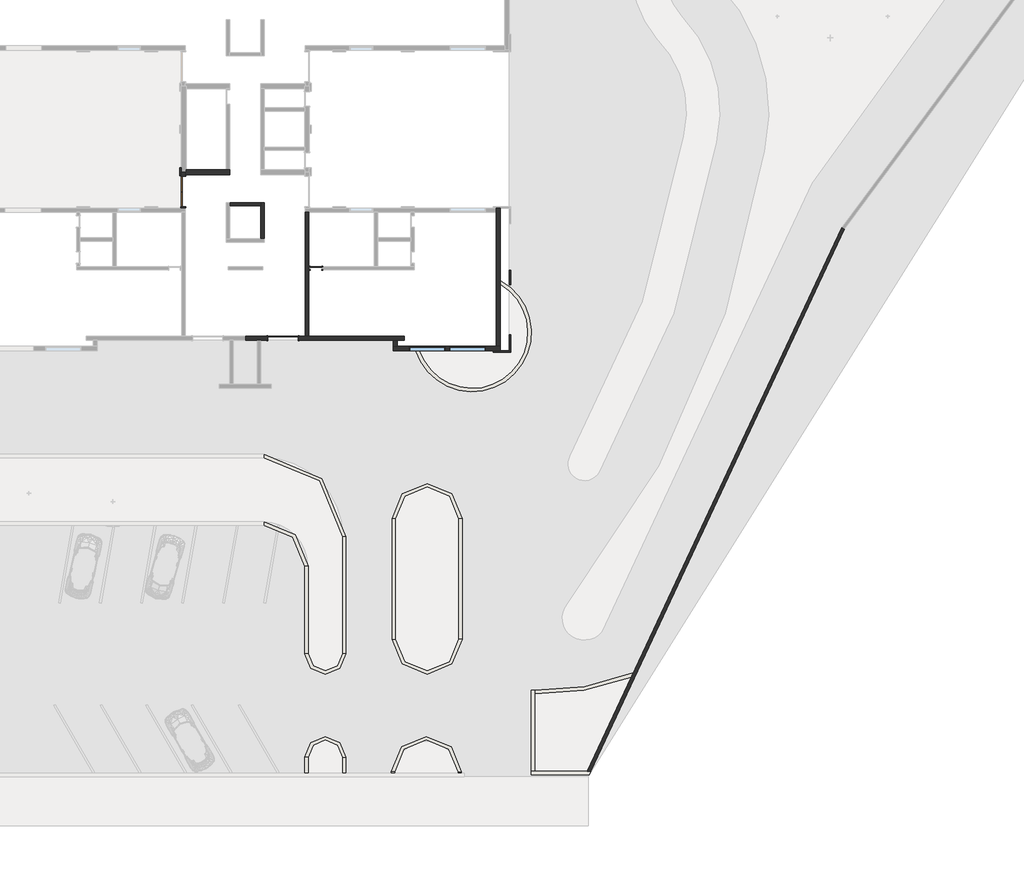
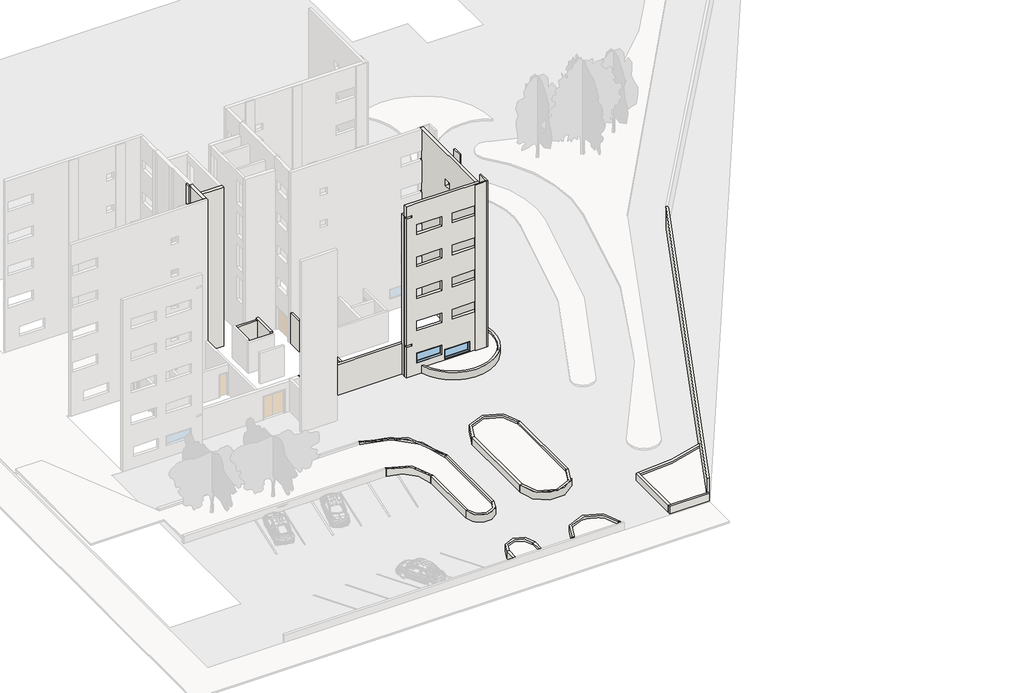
# One storey, part 2 of 6: 33 walls, 3 doors, 2 windows.
"""IFC4 building model written with IfcOpenShell, lengths in millimetres."""

from ifc_helpers import new_model, si_unit, point, frame, frame_2d, origin, origin_with_axes, place, context, project, spatial, polyline, circle_curve, trimmed, segment, composite_curve, outline, extrude, faceted_brep, transform, mapped, element, save
from ifc_brep_helpers import plane_surface, cylinder_surface, revolved_surface, advanced_brep
from components import door_1830_x_2134_mm_660d1098, door_70_x_210_2a34fc55, window_220_x_90_84e01c73

model = new_model("IFC4")

# Units and contexts
model_context = context("Model", 3, world=origin())
ifc_project = project(units=[si_unit("LENGTHUNIT", "METRE", prefix="MILLI")], contexts=[model_context])

# Site, building, storey
site = spatial("IfcSite", under=ifc_project)
building = spatial("IfcBuilding", under=site)
storey = spatial("IfcBuildingStorey", under=building, Name="Térreo", Elevation=0.0)

# Doors
placement = place(None, origin())
door_1830_x_2134_mm_shape = door_1830_x_2134_mm_660d1098(model_context)
element("IfcDoor", 1, ObjectType="Descarga dupla : 1830 x 2134 mm", at=placement, inside=storey, context=model_context, shape_type="MappedRepresentation", body=[
    mapped(door_1830_x_2134_mm_shape, transform((1266.2734258, -11931.3385375, 0.0), x_axis=(1.0, 0.0, 0.0), y_axis=(0.0, 1.0, 0.0), z_axis=(0.0, 0.0, 1.0))),
])
element("IfcDoor", 2, ObjectType="Descarga dupla : 1830 x 2134 mm", at=placement, inside=storey, context=model_context, shape_type="MappedRepresentation", body=[
    mapped(door_1830_x_2134_mm_shape, transform((-4801.2265742, -3016.3385375, 0.0), x_axis=(0.0, 1.0, 0.0), y_axis=(-1.0, 0.0, 0.0), z_axis=(0.0, 0.0, 1.0))),
])
door_70_x_210_shape = door_70_x_210_2a34fc55(model_context)
element("IfcDoor", 3, ObjectType="M_Descarga simples : 70 x 210", at=placement, inside=storey, context=model_context, shape_type="MappedRepresentation", body=[
    mapped(door_70_x_210_shape, transform((3273.7734258, -7686.3385375, 0.0), x_axis=(-1.0, 0.0, 0.0), y_axis=(0.0, -1.0, 0.0), z_axis=(0.0, 0.0, 1.0))),
])

# Walls
element("IfcWall", 4, ObjectType="Exeterna 25", at=placement, inside=storey, context=model_context, shape_type="Brep", body=[
    faceted_brep([(7973.7734258, -12686.3385375, 0.0), (9342.8441289, -12686.3385375, 0.0), (9553.3881794, -12686.3385375, 0.0), (14473.269929, -12686.3385375, 0.0), (14473.269929, -12686.3385375, 16000.0), (8713.7734258, -12686.3385375, 16000.0), (8463.7734258, -12686.3385375, 16000.0), (7973.7734258, -12686.3385375, 16000.0), (7973.7734258, -12686.3385375, 15000.0), (8463.7734258, -12686.3385375, 15000.0), (8463.7734258, -12686.3385375, 14850.0), (7973.7734258, -12686.3385375, 14850.0), (7973.7734258, -12686.3385375, 3000.0), (8463.7734258, -12686.3385375, 3000.0), (8463.7734258, -12686.3385375, 2850.0), (7973.7734258, -12686.3385375, 2850.0), (14238.7734258, -12686.3385375, 5000.0), (14238.7734258, -12686.3385375, 4100.0), (12038.7734258, -12686.3385375, 4100.0), (12038.7734258, -12686.3385375, 5000.0), (11138.7734258, -12686.3385375, 5000.0), (11138.7734258, -12686.3385375, 4100.0), (8938.7734258, -12686.3385375, 4100.0), (8938.7734258, -12686.3385375, 5000.0), (14238.7734258, -12686.3385375, 8000.0), (14238.7734258, -12686.3385375, 7100.0), (12038.7734258, -12686.3385375, 7100.0), (12038.7734258, -12686.3385375, 8000.0), (11138.7734258, -12686.3385375, 8000.0), (11138.7734258, -12686.3385375, 7100.0), (8938.7734258, -12686.3385375, 7100.0), (8938.7734258, -12686.3385375, 8000.0), (14238.7734258, -12686.3385375, 11000.0), (14238.7734258, -12686.3385375, 10100.0), (12038.7734258, -12686.3385375, 10100.0), (12038.7734258, -12686.3385375, 11000.0), (11138.7734258, -12686.3385375, 11000.0), (11138.7734258, -12686.3385375, 10100.0), (8938.7734258, -12686.3385375, 10100.0), (8938.7734258, -12686.3385375, 11000.0), (14238.7734258, -12686.3385375, 14000.0), (14238.7734258, -12686.3385375, 13100.0), (12038.7734258, -12686.3385375, 13100.0), (12038.7734258, -12686.3385375, 14000.0), (11138.7734258, -12686.3385375, 14000.0), (11138.7734258, -12686.3385375, 13100.0), (8938.7734258, -12686.3385375, 13100.0), (8938.7734258, -12686.3385375, 14000.0), (13583.7734258, -12686.3385375, 1480.0), (13583.7734258, -12686.3385375, 580.0), (11383.7734258, -12686.3385375, 580.0), (11383.7734258, -12686.3385375, 1480.0), (11138.7734258, -12686.3385375, 2000.0), (11138.7734258, -12686.3385375, 1100.0), (8938.7734258, -12686.3385375, 1100.0), (8938.7734258, -12686.3385375, 2000.0), (14473.269929, -12436.3385375, 0.0), (14223.269929, -12436.3385375, 0.0), (8223.7734258, -12436.3385375, 0.0), (7973.7734258, -12436.3385375, 0.0), (7973.7734258, -12436.3385375, 2850.0), (8463.7734258, -12436.3385375, 2850.0), (8463.7734258, -12436.3385375, 3000.0), (7973.7734258, -12436.3385375, 3000.0), (7973.7734258, -12436.3385375, 14850.0), (8463.7734258, -12436.3385375, 14850.0), (8463.7734258, -12436.3385375, 15000.0), (7973.7734258, -12436.3385375, 15000.0), (7973.7734258, -12436.3385375, 16000.0), (14223.269929, -12436.3385375, 16000.0), (14473.269929, -12436.3385375, 16000.0), (14238.7734258, -12436.3385375, 4100.0), (14238.7734258, -12436.3385375, 5000.0), (12038.7734258, -12436.3385375, 5000.0), (12038.7734258, -12436.3385375, 4100.0), (11138.7734258, -12436.3385375, 4100.0), (11138.7734258, -12436.3385375, 5000.0), (8938.7734258, -12436.3385375, 5000.0), (8938.7734258, -12436.3385375, 4100.0), (14238.7734258, -12436.3385375, 7100.0), (14238.7734258, -12436.3385375, 8000.0), (12038.7734258, -12436.3385375, 8000.0), (12038.7734258, -12436.3385375, 7100.0), (11138.7734258, -12436.3385375, 7100.0), (11138.7734258, -12436.3385375, 8000.0), (8938.7734258, -12436.3385375, 8000.0), (8938.7734258, -12436.3385375, 7100.0), (14238.7734258, -12436.3385375, 10100.0), (14238.7734258, -12436.3385375, 11000.0), (12038.7734258, -12436.3385375, 11000.0), (12038.7734258, -12436.3385375, 10100.0), (11138.7734258, -12436.3385375, 10100.0), (11138.7734258, -12436.3385375, 11000.0), (8938.7734258, -12436.3385375, 11000.0), (8938.7734258, -12436.3385375, 10100.0), (14238.7734258, -12436.3385375, 13100.0), (14238.7734258, -12436.3385375, 14000.0), (12038.7734258, -12436.3385375, 14000.0), (12038.7734258, -12436.3385375, 13100.0), (11138.7734258, -12436.3385375, 13100.0), (11138.7734258, -12436.3385375, 14000.0), (8938.7734258, -12436.3385375, 14000.0), (8938.7734258, -12436.3385375, 13100.0), (13583.7734258, -12436.3385375, 580.0), (13583.7734258, -12436.3385375, 1480.0), (11383.7734258, -12436.3385375, 1480.0), (11383.7734258, -12436.3385375, 580.0), (11138.7734258, -12436.3385375, 1100.0), (11138.7734258, -12436.3385375, 2000.0), (8938.7734258, -12436.3385375, 2000.0), (8938.7734258, -12436.3385375, 1100.0)], [[[0, 1, 2, 3, 4, 5, 6, 7, 8, 9, 10, 11, 12, 13, 14, 15], [16, 17, 18, 19], [20, 21, 22, 23], [24, 25, 26, 27], [28, 29, 30, 31], [32, 33, 34, 35], [36, 37, 38, 39], [40, 41, 42, 43], [44, 45, 46, 47], [48, 49, 50, 51], [52, 53, 54, 55]], [[56, 57, 58, 59, 60, 61, 62, 63, 64, 65, 66, 67, 68, 69, 70], [71, 72, 73, 74], [75, 76, 77, 78], [79, 80, 81, 82], [83, 84, 85, 86], [87, 88, 89, 90], [91, 92, 93, 94], [95, 96, 97, 98], [99, 100, 101, 102], [103, 104, 105, 106], [107, 108, 109, 110]], [[3, 2, 1, 0, 59, 58, 57, 56]], [[7, 6, 5, 4, 70, 69, 68]], [[4, 3, 56, 70]], [[7, 68, 67, 8]], [[59, 0, 15, 60]], [[63, 12, 11, 64]], [[14, 61, 60, 15]], [[62, 13, 12, 63]], [[61, 14, 13, 62]], [[72, 71, 17, 16]], [[73, 72, 16, 19]], [[74, 73, 19, 18]], [[71, 74, 18, 17]], [[76, 75, 21, 20]], [[77, 76, 20, 23]], [[78, 77, 23, 22]], [[75, 78, 22, 21]], [[10, 65, 64, 11]], [[66, 9, 8, 67]], [[65, 10, 9, 66]], [[80, 79, 25, 24]], [[81, 80, 24, 27]], [[82, 81, 27, 26]], [[79, 82, 26, 25]], [[84, 83, 29, 28]], [[85, 84, 28, 31]], [[86, 85, 31, 30]], [[83, 86, 30, 29]], [[88, 87, 33, 32]], [[89, 88, 32, 35]], [[90, 89, 35, 34]], [[87, 90, 34, 33]], [[92, 91, 37, 36]], [[93, 92, 36, 39]], [[94, 93, 39, 38]], [[91, 94, 38, 37]], [[96, 95, 41, 40]], [[97, 96, 40, 43]], [[98, 97, 43, 42]], [[95, 98, 42, 41]], [[100, 99, 45, 44]], [[101, 100, 44, 47]], [[102, 101, 47, 46]], [[99, 102, 46, 45]], [[104, 103, 49, 48]], [[105, 104, 48, 51]], [[106, 105, 51, 50]], [[103, 106, 50, 49]], [[108, 107, 53, 52]], [[109, 108, 52, 55]], [[110, 109, 55, 54]], [[107, 110, 54, 53]]]),
])
element("IfcWall", 5, ObjectType="Exeterna 25", at=placement, inside=storey, context=model_context, shape_type="Brep", body=[
    faceted_brep([(14473.269929, -12436.3385375, 0.0), (14473.269929, -8657.7339343, 0.0), (14473.269929, -8428.6118933, 0.0), (14473.269929, -4036.3385375, 0.0), (14473.269929, -4036.3385375, 4100.0), (14473.269929, -4286.3385375, 4100.0), (14473.269929, -4286.3385375, 5000.0), (14473.269929, -4036.3385375, 5000.0), (14473.269929, -4036.3385375, 7100.0), (14473.269929, -4286.3385375, 7100.0), (14473.269929, -4286.3385375, 8000.0), (14473.269929, -4036.3385375, 8000.0), (14473.269929, -4036.3385375, 10100.0), (14473.269929, -4286.3385375, 10100.0), (14473.269929, -4286.3385375, 11000.0), (14473.269929, -4036.3385375, 11000.0), (14473.269929, -4036.3385375, 13100.0), (14473.269929, -4286.3385375, 13100.0), (14473.269929, -4286.3385375, 14000.0), (14473.269929, -4036.3385375, 14000.0), (14473.269929, -4036.3385375, 16000.0), (14473.269929, -12436.3385375, 16000.0), (14473.269929, -8486.3385375, 3915.0), (14473.269929, -8486.3385375, 4515.0), (14473.269929, -7886.3385375, 4515.0), (14473.269929, -7886.3385375, 3915.0), (14473.269929, -8486.3385375, 6915.0), (14473.269929, -8486.3385375, 7515.0), (14473.269929, -7886.3385375, 7515.0), (14473.269929, -7886.3385375, 6915.0), (14473.269929, -8486.3385375, 9915.0), (14473.269929, -8486.3385375, 10515.0), (14473.269929, -7886.3385375, 10515.0), (14473.269929, -7886.3385375, 9915.0), (14473.269929, -8486.3385375, 12915.0), (14473.269929, -8486.3385375, 13515.0), (14473.269929, -7886.3385375, 13515.0), (14473.269929, -7886.3385375, 12915.0), (14223.269929, -4036.3385375, 0.0), (14223.269929, -4286.3385375, 0.0), (14223.269929, -12436.3385375, 0.0), (14223.269929, -12436.3385375, 2850.0), (14223.269929, -12436.3385375, 3000.0), (14223.269929, -12436.3385375, 14850.0), (14223.269929, -12436.3385375, 15000.0), (14223.269929, -12436.3385375, 16000.0), (14223.269929, -4286.3385375, 16000.0), (14223.269929, -4036.3385375, 16000.0), (14223.269929, -4036.3385375, 14000.0), (14223.269929, -4286.3385375, 14000.0), (14223.269929, -4286.3385375, 13100.0), (14223.269929, -4036.3385375, 13100.0), (14223.269929, -4036.3385375, 11000.0), (14223.269929, -4286.3385375, 11000.0), (14223.269929, -4286.3385375, 10100.0), (14223.269929, -4036.3385375, 10100.0), (14223.269929, -4036.3385375, 8000.0), (14223.269929, -4286.3385375, 8000.0), (14223.269929, -4286.3385375, 7100.0), (14223.269929, -4036.3385375, 7100.0), (14223.269929, -4036.3385375, 5000.0), (14223.269929, -4286.3385375, 5000.0), (14223.269929, -4286.3385375, 4100.0), (14223.269929, -4036.3385375, 4100.0), (14223.269929, -8486.3385375, 4515.0), (14223.269929, -8486.3385375, 3915.0), (14223.269929, -7886.3385375, 3915.0), (14223.269929, -7886.3385375, 4515.0), (14223.269929, -8486.3385375, 7515.0), (14223.269929, -8486.3385375, 6915.0), (14223.269929, -7886.3385375, 6915.0), (14223.269929, -7886.3385375, 7515.0), (14223.269929, -8486.3385375, 10515.0), (14223.269929, -8486.3385375, 9915.0), (14223.269929, -7886.3385375, 9915.0), (14223.269929, -7886.3385375, 10515.0), (14223.269929, -8486.3385375, 13515.0), (14223.269929, -8486.3385375, 12915.0), (14223.269929, -7886.3385375, 12915.0), (14223.269929, -7886.3385375, 13515.0)], [[[0, 1, 2, 3, 4, 5, 6, 7, 8, 9, 10, 11, 12, 13, 14, 15, 16, 17, 18, 19, 20, 21], [22, 23, 24, 25], [26, 27, 28, 29], [30, 31, 32, 33], [34, 35, 36, 37]], [[38, 39, 40, 41, 42, 43, 44, 45, 46, 47, 48, 49, 50, 51, 52, 53, 54, 55, 56, 57, 58, 59, 60, 61, 62, 63], [64, 65, 66, 67], [68, 69, 70, 71], [72, 73, 74, 75], [76, 77, 78, 79]], [[3, 2, 1, 0, 40, 39, 38]], [[21, 20, 47, 46, 45]], [[3, 38, 63, 4]], [[47, 20, 19, 48]], [[51, 16, 15, 52]], [[55, 12, 11, 56]], [[59, 8, 7, 60]], [[0, 21, 45, 44, 43, 42, 41, 40]], [[23, 22, 65, 64]], [[24, 23, 64, 67]], [[25, 24, 67, 66]], [[22, 25, 66, 65]], [[27, 26, 69, 68]], [[28, 27, 68, 71]], [[29, 28, 71, 70]], [[26, 29, 70, 69]], [[31, 30, 73, 72]], [[32, 31, 72, 75]], [[33, 32, 75, 74]], [[30, 33, 74, 73]], [[35, 34, 77, 76]], [[36, 35, 76, 79]], [[37, 36, 79, 78]], [[34, 37, 78, 77]], [[49, 18, 17, 50]], [[18, 49, 48, 19]], [[50, 17, 16, 51]], [[53, 14, 13, 54]], [[14, 53, 52, 15]], [[54, 13, 12, 55]], [[57, 10, 9, 58]], [[10, 57, 56, 11]], [[58, 9, 8, 59]], [[61, 6, 5, 62]], [[6, 61, 60, 7]], [[62, 5, 4, 63]]]),
])
element("IfcWall", 6, ObjectType="Exeterna 25", at=placement, inside=storey, context=model_context, shape_type="Brep", body=[
    faceted_brep([(7973.7734258, -12056.3385375, 0.0), (7973.7734258, -12436.3385375, 0.0), (7973.7734258, -12436.3385375, 15000.0), (7973.7734258, -12056.3385375, 15000.0), (7973.7734258, -12056.3385375, 6000.0), (7973.7734258, -12056.3385375, 3000.0), (8223.7734258, -12056.3385375, 0.0), (8223.7734258, -12056.3385375, 15000.0), (8223.7734258, -12436.3385375, 15000.0), (8223.7734258, -12436.3385375, 0.0)], [[[0, 1, 2, 3, 4, 5]], [[6, 7, 8, 9]], [[1, 0, 6, 9]], [[3, 2, 8, 7]], [[2, 1, 9, 8]], [[0, 5, 4, 3, 7, 6]]]),
])
element("IfcWall", 7, ObjectType="Exeterna 25", at=placement, inside=storey, context=model_context, shape_type="Brep", body=[
    faceted_brep([(-4676.2265742, -1846.3385375, 16000.0), (-4676.2265742, -4036.3385375, 16000.0), (-4676.2265742, -4036.3385375, 15000.0), (-4676.2265742, -4036.3385375, 14850.0), (-4676.2265742, -4036.3385375, 3000.0), (-4676.2265742, -4036.3385375, 2850.0), (-4676.2265742, -4036.3385375, 0.0), (-4676.2265742, -3931.3385375, 0.0), (-4676.2265742, -3931.3385375, 2134.0), (-4676.2265742, -2101.3385375, 2134.0), (-4676.2265742, -2101.3385375, 0.0), (-4676.2265742, -1996.3385375, 0.0), (-4676.2265742, -1846.3385375, 0.0), (-4676.2265742, -1846.3385375, 14850.0), (-4676.2265742, -1846.3385375, 15000.0), (-4676.2265742, -3724.4383886, 5000.0), (-4676.2265742, -2256.7552159, 5000.0), (-4676.2265742, -2256.7552159, 4100.0), (-4676.2265742, -3724.4383886, 4100.0), (-4676.2265742, -3724.4383886, 8000.0), (-4676.2265742, -2256.7552159, 8000.0), (-4676.2265742, -2256.7552159, 7100.0), (-4676.2265742, -3724.4383886, 7100.0), (-4676.2265742, -3724.4383886, 11000.0), (-4676.2265742, -2256.7552159, 11000.0), (-4676.2265742, -2256.7552159, 10100.0), (-4676.2265742, -3724.4383886, 10100.0), (-4676.2265742, -3724.4383886, 14000.0), (-4676.2265742, -2256.7552159, 14000.0), (-4676.2265742, -2256.7552159, 13100.0), (-4676.2265742, -3724.4383886, 13100.0), (-4926.2265742, -4036.3385375, 16000.0), (-4926.2265742, -1846.3385375, 16000.0), (-4926.2265742, -1846.3385375, 0.0), (-4926.2265742, -2101.3385375, 0.0), (-4926.2265742, -2101.3385375, 2134.0), (-4926.2265742, -3931.3385375, 2134.0), (-4926.2265742, -3931.3385375, 0.0), (-4926.2265742, -4036.3385375, 0.0), (-4926.2265742, -2256.7552159, 5000.0), (-4926.2265742, -3724.4383886, 5000.0), (-4926.2265742, -3724.4383886, 4100.0), (-4926.2265742, -2256.7552159, 4100.0), (-4926.2265742, -2256.7552159, 8000.0), (-4926.2265742, -3724.4383886, 8000.0), (-4926.2265742, -3724.4383886, 7100.0), (-4926.2265742, -2256.7552159, 7100.0), (-4926.2265742, -2256.7552159, 11000.0), (-4926.2265742, -3724.4383886, 11000.0), (-4926.2265742, -3724.4383886, 10100.0), (-4926.2265742, -2256.7552159, 10100.0), (-4926.2265742, -2256.7552159, 14000.0), (-4926.2265742, -3724.4383886, 14000.0), (-4926.2265742, -3724.4383886, 13100.0), (-4926.2265742, -2256.7552159, 13100.0)], [[[0, 1, 2, 3, 4, 5, 6, 7, 8, 9, 10, 11, 12, 13, 14], [15, 16, 17, 18], [19, 20, 21, 22], [23, 24, 25, 26], [27, 28, 29, 30]], [[31, 32, 33, 34, 35, 36, 37, 38], [39, 40, 41, 42], [43, 44, 45, 46], [47, 48, 49, 50], [51, 52, 53, 54]], [[6, 38, 37, 7]], [[33, 12, 11, 10, 34]], [[1, 0, 32, 31]], [[9, 35, 34, 10]], [[35, 9, 8, 36]], [[36, 8, 7, 37]], [[15, 40, 39, 16]], [[17, 42, 41, 18]], [[40, 15, 18, 41]], [[16, 39, 42, 17]], [[19, 44, 43, 20]], [[21, 46, 45, 22]], [[44, 19, 22, 45]], [[20, 43, 46, 21]], [[23, 48, 47, 24]], [[25, 50, 49, 26]], [[48, 23, 26, 49]], [[24, 47, 50, 25]], [[27, 52, 51, 28]], [[29, 54, 53, 30]], [[52, 27, 30, 53]], [[28, 51, 54, 29]], [[1, 31, 38, 6, 5, 4, 3, 2]], [[12, 33, 32, 0, 14, 13]]]),
])
element("IfcWall", 8, ObjectType="Exeterna 25", at=placement, inside=storey, context=model_context, shape_type="Brep", body=[
    faceted_brep([(8638.7734258, -12056.3385375, 0.0), (8638.7734258, -12056.3385375, 2850.0), (-1026.2265742, -12056.3385375, 2850.0), (-1026.2265742, -12056.3385375, 0.0), (-291.2265742, -12056.3385375, 0.0), (-91.2265742, -12056.3385375, 0.0), (351.2734258, -12056.3385375, 0.0), (351.2734258, -12056.3385375, 2134.0), (2181.2734258, -12056.3385375, 2134.0), (2181.2734258, -12056.3385375, 0.0), (8638.7734258, -11806.3385375, 2850.0), (8638.7734258, -11806.3385375, 0.0), (2823.7734258, -11806.3385375, 0.0), (2623.7734258, -11806.3385375, 0.0), (2181.2734258, -11806.3385375, 0.0), (2181.2734258, -11806.3385375, 2134.0), (351.2734258, -11806.3385375, 2134.0), (351.2734258, -11806.3385375, 0.0), (-1026.2265742, -11806.3385375, 0.0), (-1026.2265742, -11806.3385375, 2850.0), (2623.7734258, -11806.3385375, 2850.0), (2823.7734258, -11806.3385375, 2850.0)], [[[0, 1, 2, 3, 4, 5, 6, 7, 8, 9]], [[10, 11, 12, 13, 14, 15, 16, 17, 18, 19, 20, 21]], [[11, 0, 9, 14, 13, 12]], [[3, 18, 17, 6, 5, 4]], [[1, 0, 11, 10]], [[2, 1, 10, 21, 20, 19]], [[3, 2, 19, 18]], [[8, 15, 14, 9]], [[15, 8, 7, 16]], [[16, 7, 6, 17]]]),
])
element("IfcWall", 9, ObjectType="jardineira", at=placement, inside=storey, context=model_context, shape_type="Brep", body=[
    faceted_brep([(19973.6851642, -38281.4344816, 0.0), (19752.8557151, -38281.4344816, 0.0), (16568.5988374, -38281.4344816, 0.0), (16368.5988374, -38281.4344816, 0.0), (16368.5988374, -38281.4344816, 700.0), (16568.5988374, -38281.4344816, 700.0), (19973.6851642, -38281.4344816, 700.0), (19880.0601377, -38481.4344816, 0.0), (19880.0601377, -38481.4344816, 700.0), (16368.5988374, -38481.4344816, 700.0), (16368.5988374, -38481.4344816, 0.0)], [[[0, 1, 2, 3, 4, 5, 6]], [[7, 8, 9, 10]], [[3, 2, 1, 0, 7, 10]], [[6, 5, 4, 9, 8]], [[4, 3, 10, 9]], [[0, 6, 8, 7]]]),
])
element("IfcWall", 10, ObjectType="jardineira", at=placement, inside=storey, context=model_context, shape_type="AdvancedBrep", body=[
    advanced_brep(
    [(16568.5988374, -38281.4344816, 0.0), (16568.5988374, -33543.0270687, 0.0), (16568.5988374, -33342.9644186, 0.0), (16568.5988374, -33342.9644186, 700.0), (16568.5988374, -33543.0270687, 700.0), (16568.5988374, -38281.4344816, 700.0), (16368.5988374, -38281.4344816, 0.0), (16368.5988374, -38281.4344816, 700.0), (16368.5988374, -33336.6191191, 700.0), (16368.5988374, -33336.6191191, 0.0)],
    [
        (0, 1),
        (1, 2),
        (2, 3),
        (3, 4),
        (4, 5),
        (5, 0),
        (6, 7),
        (7, 8),
        (8, 9),
        (9, 6),
        (0, 6),
        (9, 2, circle_curve(frame((16954.7200078, -18017.5465347, 0.0), z_axis=(0.0, 0.0, 1.0), x_axis=(1.0, 0.0, 0.0)), 15330.2812392)),
        (3, 8, circle_curve(frame((16954.7200078, -18017.5465347, 700.0), z_axis=(0.0, 0.0, -1.0), x_axis=(1.0, 0.0, 0.0)), 15330.2812392)),
        (7, 5),
    ],
    [
        plane_surface(frame((16568.5988374, -38481.4344816, 0.0), z_axis=(1.0, 0.0, 0.0), x_axis=(0.0, 1.0, 0.0))),
        plane_surface(frame((16368.5988374, -38481.4344816, 0.0), z_axis=(-1.0, 0.0, 0.0), x_axis=(0.0, -1.0, 0.0))),
        plane_surface(frame((16568.5988374, -38381.4344816, 0.0), z_axis=(0.0, 0.0, -1.0), x_axis=(-1.0, 0.0, 0.0))),
        plane_surface(frame((16568.5988374, -33440.1684042, 700.0), z_axis=(0.0, 0.0, 1.0), x_axis=(-1.0, 0.0, 0.0))),
        plane_surface(frame((19880.0601377, -38281.4344816, 0.0), z_axis=(0.0, -1.0, 0.0), x_axis=(-1.0, 0.0, 0.0))),
        revolved_surface(polyline([(32285.001247, -18017.5465347, 0.0), (32285.001247, -18017.5465347, 700.0)]), (16954.7200078, -18017.5465347, 0.0), (0.0, 0.0, -1.0)),
    ],
    [
        (0, [[1, 2, 3, 4, 5, 6]]),
        (1, [[7, 8, 9, 10]]),
        (2, [[-2, -1, 11, -10, 12]]),
        (3, [[-5, -4, 13, -8, 14]]),
        (4, [[-6, -14, -7, -11]]),
        (5, [[-3, -12, -9, -13]]),
    ],
),
])
element("IfcWall", 11, ObjectType="jardineira", at=placement, inside=storey, context=model_context, shape_type="SweptSolid", body=[
    extrude(outline(polyline([(4891.9307061, -31114.4634261), (4891.9307061, -24006.6566108), (5091.9307061, -24006.6566108), (5091.9307061, -31114.4634261), (4891.9307061, -31114.4634261)])), origin_with_axes(), (0.0, 0.0, 1.0), 700.0),
])
element("IfcWall", 12, ObjectType="jardineira", at=placement, inside=storey, context=model_context, shape_type="SweptSolid", body=[
    extrude(outline(polyline([(8096.7764098, -22906.6566108), (8096.7764098, -30232.738286), (7896.7764098, -30232.738286), (7896.7764098, -22906.6566108), (8096.7764098, -22906.6566108)])), origin_with_axes(), (0.0, 0.0, 1.0), 700.0),
])
element("IfcWall", 13, ObjectType="jardineira", at=placement, inside=storey, context=model_context, shape_type="SweptSolid", body=[
    extrude(outline(polyline([(11960.22669, -30232.738286), (11960.22669, -22906.6566108), (12160.22669, -22906.6566108), (12160.22669, -30232.738286), (11960.22669, -30232.738286)])), origin_with_axes(), (0.0, 0.0, 1.0), 700.0),
])
element("IfcWall", 14, ObjectType="jardineira", at=placement, inside=storey, context=model_context, shape_type="SweptSolid", body=[
    extrude(outline(polyline([(2791.9307061, -37414.1480873), (2791.9307061, -38395.8732274), (2591.9307061, -38395.8732274), (2591.9307061, -37414.1480873), (2791.9307061, -37414.1480873)])), origin_with_axes(), (0.0, 0.0, 1.0), 700.0),
])
element("IfcWall", 15, ObjectType="jardineira", at=placement, inside=storey, context=model_context, shape_type="SweptSolid", body=[
    extrude(outline(composite_curve([segment(polyline([(22559.1568436, -32286.6674126), (22436.7787869, -32548.0890887)]), True, "CONTINUOUS"), segment(trimmed(circle_curve(frame_2d((16954.7200078, -18017.5465347)), 15530.2812392), [point((22436.7787869, -32548.0890887))], [point((16568.5988374, -33543.0270687))], False, "CARTESIAN"), True, "CONTINUOUS"), segment(polyline([(16568.5988374, -33543.0270687), (16568.5988374, -33342.9644186)]), True, "CONTINUOUS"), segment(trimmed(circle_curve(frame_2d((16954.7200078, -18017.5465347)), 15330.2812392), [point((16568.5988374, -33342.9644186))], [point((22559.1568436, -32286.6674126))], True, "CARTESIAN"), True, "CONTINUOUS")], self_intersect=False)), origin_with_axes(), (0.0, 0.0, 1.0), 700.0),
])
element("IfcWall", 16, ObjectType="jardineira", at=placement, inside=storey, context=model_context, shape_type="SweptSolid", body=[
    extrude(outline(composite_curve([segment(polyline([(2791.9307061, -25806.6566108), (2591.9307061, -25806.6566108)]), True, "CONTINUOUS"), segment(trimmed(circle_curve(frame_2d((91.9307061, -25806.6566108)), 2500.0), [point((2591.9307061, -25806.6566108))], [point((91.9307061, -23306.6566108))], True, "CARTESIAN"), True, "CONTINUOUS"), segment(polyline([(91.9307061, -23306.6566108), (91.9307061, -23106.6566108)]), True, "CONTINUOUS"), segment(trimmed(circle_curve(frame_2d((91.9307061, -25806.6566108)), 2700.0), [point((91.9307061, -23106.6566108))], [point((2791.9307061, -25806.6566108))], False, "CARTESIAN"), True, "CONTINUOUS")], self_intersect=False)), origin_with_axes(), (0.0, 0.0, 1.0), 700.0),
])
element("IfcWall", 17, ObjectType="jardineira", at=placement, inside=storey, context=model_context, shape_type="SweptSolid", body=[
    extrude(outline(composite_curve([segment(polyline([(91.9307061, -19206.6566108), (91.9307061, -19006.6566108)]), True, "CONTINUOUS"), segment(trimmed(circle_curve(frame_2d((91.9307061, -24006.6566108)), 5000.0), [point((91.9307061, -19006.6566108))], [point((5091.9307061, -24006.6566108))], False, "CARTESIAN"), True, "CONTINUOUS"), segment(polyline([(5091.9307061, -24006.6566108), (4891.9307061, -24006.6566108)]), True, "CONTINUOUS"), segment(trimmed(circle_curve(frame_2d((91.9307061, -24006.6566108)), 4800.0), [point((4891.9307061, -24006.6566108))], [point((91.9307061, -19206.6566108))], True, "CARTESIAN"), True, "CONTINUOUS")], self_intersect=False)), origin_with_axes(), (0.0, 0.0, 1.0), 700.0),
])
element("IfcWall", 18, ObjectType="jardineira", at=placement, inside=storey, context=model_context, shape_type="SweptSolid", body=[
    extrude(outline(composite_curve([segment(polyline([(12160.22669, -22906.6566108), (11960.22669, -22906.6566108)]), True, "CONTINUOUS"), segment(trimmed(circle_curve(frame_2d((10028.5015499, -22906.6566108)), 1931.7251401), [point((11960.22669, -22906.6566108))], [point((8096.7764098, -22906.6566108))], True, "CARTESIAN"), True, "CONTINUOUS"), segment(polyline([(8096.7764098, -22906.6566108), (7896.7764098, -22906.6566108)]), True, "CONTINUOUS"), segment(trimmed(circle_curve(frame_2d((10028.5015499, -22906.6566108)), 2131.7251401), [point((7896.7764098, -22906.6566108))], [point((12160.22669, -22906.6566108))], False, "CARTESIAN"), True, "CONTINUOUS")], self_intersect=False)), origin_with_axes(), (0.0, 0.0, 1.0), 700.0),
])
element("IfcWall", 19, ObjectType="jardineira", at=placement, inside=storey, context=model_context, shape_type="SweptSolid", body=[
    extrude(outline(polyline([(4891.9307061, -38395.8732274), (4891.9307061, -37414.1480873), (5091.9307061, -37414.1480873), (5091.9307061, -38395.8732274), (4891.9307061, -38395.8732274)])), origin_with_axes(), (0.0, 0.0, 1.0), 700.0),
])
element("IfcWall", 20, ObjectType="jardineira", at=placement, inside=storey, context=model_context, shape_type="SweptSolid", body=[
    extrude(outline(polyline([(2791.9307061, -25806.6566108), (2791.9307061, -31114.4634261), (2591.9307061, -31114.4634261), (2591.9307061, -25806.6566108), (2791.9307061, -25806.6566108)])), origin_with_axes(), (0.0, 0.0, 1.0), 700.0),
])
element("IfcWall", 21, ObjectType="jardineira", at=placement, inside=storey, context=model_context, shape_type="SweptSolid", body=[
    extrude(outline(composite_curve([segment(trimmed(circle_curve(frame_2d((12768.6644727, -11594.4799369)), 3595.6084647), [point((14473.269929, -8428.6118933))], [point((9342.8441289, -12686.3385375))], False, "CARTESIAN"), True, "CONTINUOUS"), segment(polyline([(9342.8441289, -12686.3385375), (9553.3881794, -12686.3385375)]), True, "CONTINUOUS"), segment(trimmed(circle_curve(frame_2d((12768.6644727, -11594.4799369)), 3395.6084647), [point((9553.3881794, -12686.3385375))], [point((14473.269929, -8657.7339343))], True, "CARTESIAN"), True, "CONTINUOUS"), segment(polyline([(14473.269929, -8657.7339343), (14473.269929, -8428.6118933)]), True, "CONTINUOUS")], self_intersect=False)), origin_with_axes(), (0.0, 0.0, 1.0), 700.0),
])
element("IfcWall", 22, ObjectType="jardineira", at=placement, inside=storey, context=model_context, shape_type="SweptSolid", body=[
    extrude(outline(composite_curve([segment(polyline([(2591.9307061, -31114.4634261), (2791.9307061, -31114.4634261)]), True, "CONTINUOUS"), segment(trimmed(circle_curve(frame_2d((3841.9307061, -31114.4634261)), 1050.0), [point((2791.9307061, -31114.4634261))], [point((4891.9307061, -31114.4634261))], True, "CARTESIAN"), True, "CONTINUOUS"), segment(polyline([(4891.9307061, -31114.4634261), (5091.9307061, -31114.4634261)]), True, "CONTINUOUS"), segment(trimmed(circle_curve(frame_2d((3841.9307061, -31114.4634261)), 1250.0), [point((5091.9307061, -31114.4634261))], [point((2591.9307061, -31114.4634261))], False, "CARTESIAN"), True, "CONTINUOUS")], self_intersect=False)), origin_with_axes(), (0.0, 0.0, 1.0), 700.0),
])
element("IfcWall", 23, ObjectType="jardineira", at=placement, inside=storey, context=model_context, shape_type="SweptSolid", body=[
    extrude(outline(composite_curve([segment(polyline([(5091.9307061, -37414.1480873), (4891.9307061, -37414.1480873)]), True, "CONTINUOUS"), segment(trimmed(circle_curve(frame_2d((3841.9307061, -37414.1480873)), 1050.0), [point((4891.9307061, -37414.1480873))], [point((2791.9307061, -37414.1480873))], True, "CARTESIAN"), True, "CONTINUOUS"), segment(polyline([(2791.9307061, -37414.1480873), (2591.9307061, -37414.1480873)]), True, "CONTINUOUS"), segment(trimmed(circle_curve(frame_2d((3841.9307061, -37414.1480873)), 1250.0), [point((2591.9307061, -37414.1480873))], [point((5091.9307061, -37414.1480873))], False, "CARTESIAN"), True, "CONTINUOUS")], self_intersect=False)), origin_with_axes(), (0.0, 0.0, 1.0), 700.0),
])
element("IfcWall", 24, ObjectType="jardineira", at=placement, inside=storey, context=model_context, shape_type="AdvancedBrep", body=[
    advanced_brep(
    [(8049.314841, -38295.8732274, 700.0), (11912.7651212, -38295.8732274, 700.0), (11916.0838171, -38295.8732274, 700.0), (12112.7651212, -38295.8732274, 700.0), (7849.314841, -38295.8732274, 700.0), (8045.9961451, -38295.8732274, 700.0), (8049.314841, -38295.8732274, 0.0), (8045.9961451, -38295.8732274, 0.0), (7849.314841, -38295.8732274, 0.0), (12112.7651212, -38295.8732274, 0.0), (11916.0838171, -38295.8732274, 0.0), (11912.7651212, -38295.8732274, 0.0)],
    [
        (0, 1, circle_curve(frame((9981.0399811, -38295.8732274, 700.0), z_axis=(0.0, 0.0, -1.0), x_axis=(1.0, 0.0, 0.0)), 1931.7251401)),
        (1, 2),
        (2, 3),
        (3, 4, circle_curve(frame((9981.0399811, -38295.8732274, 700.0), z_axis=(0.0, 0.0, 1.0), x_axis=(1.0, 0.0, 0.0)), 2131.7251401)),
        (4, 5),
        (5, 0),
        (6, 7),
        (7, 8),
        (8, 9, circle_curve(frame((9981.0399811, -38295.8732274, 0.0), z_axis=(0.0, 0.0, -1.0), x_axis=(1.0, 0.0, 0.0)), 2131.7251401)),
        (9, 10),
        (10, 11),
        (11, 6, circle_curve(frame((9981.0399811, -38295.8732274, 0.0), z_axis=(0.0, 0.0, 1.0), x_axis=(1.0, 0.0, 0.0)), 1931.7251401)),
        (0, 6),
        (11, 1),
        (9, 3),
        (8, 4),
    ],
    [
        plane_surface(frame((11912.7651212, -38295.8732274, 700.0), z_axis=(0.0, 0.0, 1.0), x_axis=(0.0, -1.0, 0.0))),
        plane_surface(frame((11912.7651212, -38295.8732274, 0.0), z_axis=(0.0, 0.0, -1.0), x_axis=(0.0, 1.0, 0.0))),
        revolved_surface(polyline([(11912.7651212, -38295.8732274, 0.0), (11912.7651212, -38295.8732274, 700.0)]), (9981.0399811, -38295.8732274, 0.0), (0.0, 0.0, -1.0)),
        plane_surface(frame((11912.7651212, -38295.8732274, 700.0), z_axis=(0.0, -1.0, 0.0), x_axis=(0.0, 0.0, -1.0))),
        cylinder_surface(frame((9981.0399811, -38295.8732274, 0.0), z_axis=(0.0, 0.0, 1.0), x_axis=(1.0, 0.0, 0.0)), 2131.7251401),
        plane_surface(frame((7849.314841, -38295.8732274, 700.0), z_axis=(0.0, -1.0, 0.0), x_axis=(0.0, 0.0, -1.0))),
    ],
    [
        (0, [[1, 2, 3, 4, 5, 6]]),
        (1, [[7, 8, 9, 10, 11, 12]]),
        (2, [[-1, 13, -12, 14]]),
        (3, [[-3, -2, -14, -11, -10, 15]]),
        (4, [[-4, -15, -9, 16]]),
        (5, [[-6, -5, -16, -8, -7, -13]]),
    ],
),
])
element("IfcWall", 25, ObjectType="jardineira", at=placement, inside=storey, context=model_context, shape_type="SweptSolid", body=[
    extrude(outline(composite_curve([segment(polyline([(11960.22669, -30232.738286), (12160.22669, -30232.738286)]), True, "CONTINUOUS"), segment(trimmed(circle_curve(frame_2d((10028.5015499, -30232.738286)), 2131.7251401), [point((12160.22669, -30232.738286))], [point((7896.7764098, -30232.738286))], False, "CARTESIAN"), True, "CONTINUOUS"), segment(polyline([(7896.7764098, -30232.738286), (8096.7764098, -30232.738286)]), True, "CONTINUOUS"), segment(trimmed(circle_curve(frame_2d((10028.5015499, -30232.738286)), 1931.7251401), [point((8096.7764098, -30232.738286))], [point((11960.22669, -30232.738286))], True, "CARTESIAN"), True, "CONTINUOUS")], self_intersect=False)), origin_with_axes(), (0.0, 0.0, 1.0), 700.0),
])
element("IfcWall", 26, ObjectType="jardineira", at=placement, inside=storey, context=model_context, shape_type="Brep", body=[
    faceted_brep([(8045.9961451, -38395.8732274, 0.0), (8045.9961451, -38295.8732274, 0.0), (8045.9961451, -38295.8732274, 700.0), (8045.9961451, -38395.8732274, 700.0), (7845.9961451, -38395.8732274, 0.0), (7845.9961451, -38395.8732274, 700.0), (7845.9961451, -38295.8732274, 700.0), (7845.9961451, -38295.8732274, 0.0), (7849.314841, -38295.8732274, 0.0), (7849.314841, -38295.8732274, 700.0)], [[[0, 1, 2, 3]], [[4, 5, 6, 7]], [[1, 0, 4, 7, 8]], [[2, 1, 8, 7, 6, 9]], [[3, 2, 9, 6, 5]], [[0, 3, 5, 4]]]),
])
element("IfcWall", 27, ObjectType="jardineira", at=placement, inside=storey, context=model_context, shape_type="Brep", body=[
    faceted_brep([(12116.0838171, -38395.8732274, 0.0), (12116.0838171, -38295.8732274, 0.0), (12116.0838171, -38295.8732274, 700.0), (12116.0838171, -38395.8732274, 700.0), (11916.0838171, -38395.8732274, 0.0), (11916.0838171, -38395.8732274, 700.0), (11916.0838171, -38295.8732274, 700.0), (11916.0838171, -38295.8732274, 0.0), (12112.7651212, -38295.8732274, 0.0), (12112.7651212, -38295.8732274, 700.0)], [[[0, 1, 2, 3]], [[4, 5, 6, 7]], [[1, 0, 4, 7, 8]], [[2, 1, 8, 7, 6, 9]], [[3, 2, 9, 6, 5]], [[0, 3, 5, 4]]]),
])
element("IfcWall", 28, ObjectType="Estrutura - Interna 30", at=placement, inside=storey, context=model_context, shape_type="Brep", body=[
    faceted_brep([(-1976.2265742, -1696.3385375, 0.0), (-2176.2265742, -1696.3385375, 0.0), (-4626.2265742, -1696.3385375, 0.0), (-4626.2265742, -1696.3385375, 14850.0), (-2176.2265742, -1696.3385375, 14850.0), (-1976.2265742, -1696.3385375, 14850.0), (-1976.2265742, -1696.3385375, 3000.0), (-1976.2265742, -1696.3385375, 2850.0), (-4676.2265742, -1996.3385375, 0.0), (-1976.2265742, -1996.3385375, 0.0), (-1976.2265742, -1996.3385375, 2850.0), (-1976.2265742, -1996.3385375, 3000.0), (-1976.2265742, -1996.3385375, 5850.0), (-1976.2265742, -1996.3385375, 6000.0), (-1976.2265742, -1996.3385375, 8850.0), (-1976.2265742, -1996.3385375, 9000.0), (-1976.2265742, -1996.3385375, 11850.0), (-1976.2265742, -1996.3385375, 12000.0), (-1976.2265742, -1996.3385375, 14850.0), (-2176.2265742, -1996.3385375, 14850.0), (-4676.2265742, -1996.3385375, 14850.0), (-4676.2265742, -1996.3385375, 3000.0), (-4676.2265742, -1996.3385375, 2850.0), (-4676.2265742, -1846.3385375, 0.0), (-4626.2265742, -1846.3385375, 0.0), (-4626.2265742, -1846.3385375, 14850.0), (-4676.2265742, -1846.3385375, 14850.0)], [[[0, 1, 2, 3, 4, 5, 6, 7]], [[8, 9, 10, 11, 12, 13, 14, 15, 16, 17, 18, 19, 20, 21, 22]], [[2, 1, 0, 9, 8, 23, 24]], [[5, 4, 3, 25, 26, 20, 19, 18]], [[3, 2, 24, 25]], [[24, 23, 26, 25]], [[23, 8, 22, 21, 20, 26]], [[5, 18, 17, 16, 15, 14, 13, 12, 11, 10, 9, 0, 7, 6]]]),
])
element("IfcWall", 29, ObjectType="Estrutura 20", at=placement, inside=storey, context=model_context, shape_type="SweptSolid", body=[
    extrude(outline(polyline([(-76.2265742, -3886.3385375), (-1976.2265742, -3886.3385375), (-1976.2265742, -3686.3385375), (-76.2265742, -3686.3385375), (-76.2265742, -3886.3385375)])), origin_with_axes(), (0.0, 0.0, 1.0), 2850.0),
])
element("IfcWall", 30, ObjectType="Externa Muro", at=placement, inside=storey, context=model_context, shape_type="Brep", body=[
    faceted_brep([(35233.539337, -5211.8927143, 0.0), (22559.1568436, -32286.6674126, 0.0), (22436.7787869, -32548.0890887, 0.0), (19752.8557151, -38281.4344816, 0.0), (19752.8557151, -38281.4344816, 2000.0), (35233.539337, -5211.8927143, 2000.0), (35406.1839606, -5314.8242216, 0.0), (35406.1839606, -5314.8242216, 2000.0), (19973.6851642, -38281.4344816, 2000.0), (19973.6851642, -38281.4344816, 700.0), (19973.6851642, -38281.4344816, 0.0)], [[[0, 1, 2, 3, 4, 5]], [[6, 7, 8, 9, 10]], [[3, 2, 1, 0, 6, 10]], [[5, 4, 8, 7]], [[0, 5, 7, 6]], [[4, 3, 10, 9, 8]]]),
])
element("IfcWall", 31, ObjectType="Interna 20", at=placement, inside=storey, context=model_context, shape_type="Brep", body=[
    faceted_brep([(123.7734258, -5886.3385375, 0.0), (123.7734258, -3686.3385375, 0.0), (123.7734258, -3686.3385375, 3000.0), (123.7734258, -5886.3385375, 3000.0), (123.7734258, -5886.3385375, 2850.0), (-76.2265742, -5886.3385375, 0.0), (-76.2265742, -5886.3385375, 3000.0), (-76.2265742, -3686.3385375, 3000.0), (-76.2265742, -3686.3385375, 2850.0), (-76.2265742, -3686.3385375, 0.0), (-76.2265742, -3886.3385375, 0.0)], [[[0, 1, 2, 3, 4]], [[5, 6, 7, 8, 9, 10]], [[1, 0, 5, 10, 9]], [[3, 2, 7, 6]], [[2, 1, 9, 8, 7]], [[0, 4, 3, 6, 5]]]),
])
element("IfcWall", 32, ObjectType="Interna 20", at=placement, inside=storey, context=model_context, shape_type="Brep", body=[
    faceted_brep([(2823.7734258, -11806.3385375, 0.0), (2823.7734258, -7786.3385375, 0.0), (2823.7734258, -7586.3385375, 0.0), (2823.7734258, -4286.3385375, 0.0), (2823.7734258, -4286.3385375, 2850.0), (2823.7734258, -7586.3385375, 2850.0), (2823.7734258, -7786.3385375, 2850.0), (2823.7734258, -11806.3385375, 2850.0), (2623.7734258, -11806.3385375, 0.0), (2623.7734258, -11806.3385375, 2850.0), (2623.7734258, -4286.3385375, 2850.0), (2623.7734258, -4286.3385375, 0.0)], [[[0, 1, 2, 3, 4, 5, 6, 7]], [[8, 9, 10, 11]], [[3, 2, 1, 0, 8, 11]], [[7, 6, 5, 4, 10, 9]], [[4, 3, 11, 10]], [[0, 7, 9, 8]]]),
])
element("IfcWall", 33, ObjectType="detalhe", at=placement, inside=storey, context=model_context, shape_type="SweptSolid", body=[
    extrude(outline(polyline([(-4926.2265742, -1580.883992), (-4926.2265742, -2057.2476284), (-5026.2265742, -2057.2476284), (-5026.2265742, -1580.883992), (-4926.2265742, -1580.883992)])), origin_with_axes(), (0.0, 0.0, 1.0), 16000.0),
])
element("IfcWall", 34, ObjectType="detalhe", at=placement, inside=storey, context=model_context, shape_type="SweptSolid", body=[
    extrude(outline(polyline([(15013.7734258, -8676.3385375), (15013.7734258, -7815.4774808), (15113.7734258, -7815.4774808), (15113.7734258, -8676.3385375), (15013.7734258, -8676.3385375)])), origin_with_axes(), (0.0, 0.0, 1.0), 16000.0),
])
element("IfcWall", 35, ObjectType="detalhe", at=placement, inside=storey, context=model_context, shape_type="Brep", body=[
    faceted_brep([(15013.7734258, -11736.3385375, 0.0), (15013.7734258, -12686.3385375, 0.0), (15013.7734258, -12786.3385375, 0.0), (15013.7734258, -12786.3385375, 16000.0), (15013.7734258, -12686.3385375, 16000.0), (15013.7734258, -11736.3385375, 16000.0), (15113.7734258, -11736.3385375, 0.0), (15113.7734258, -11736.3385375, 16000.0), (15113.7734258, -12786.3385375, 16000.0), (15113.7734258, -12786.3385375, 0.0)], [[[0, 1, 2, 3, 4, 5]], [[6, 7, 8, 9]], [[2, 1, 0, 6, 9]], [[5, 4, 3, 8, 7]], [[0, 5, 7, 6]], [[3, 2, 9, 8]]]),
])
element("IfcWall", 36, ObjectType="detalhe", at=placement, inside=storey, context=model_context, shape_type="SweptSolid", body=[
    extrude(outline(polyline([(14043.7734258, -12686.3385375), (15013.7734258, -12686.3385375), (15013.7734258, -12786.3385375), (14043.7734258, -12786.3385375), (14043.7734258, -12686.3385375)])), origin_with_axes(), (0.0, 0.0, 1.0), 16000.0),
])

# Windows
window_220_x_90_shape = window_220_x_90_84e01c73(model_context)
element("IfcWindow", 37, ObjectType="M_Fixado : 220 x 90", at=placement, inside=storey, context=model_context, shape_type="MappedRepresentation", body=[
    mapped(window_220_x_90_shape, transform((10038.7734258, -12574.3385375, 185.0), x_axis=(-1.0, 0.0, 0.0), y_axis=(0.0, -1.0, 0.0), z_axis=(0.0, 0.0, 1.0))),
])
element("IfcWindow", 38, ObjectType="M_Fixado : 220 x 90", at=placement, inside=storey, context=model_context, shape_type="MappedRepresentation", body=[
    mapped(window_220_x_90_shape, transform((12483.7734258, -12574.3385375, -335.0), x_axis=(-1.0, 0.0, 0.0), y_axis=(0.0, -1.0, 0.0), z_axis=(0.0, 0.0, 1.0))),
])

save(model, "model.ifc")
